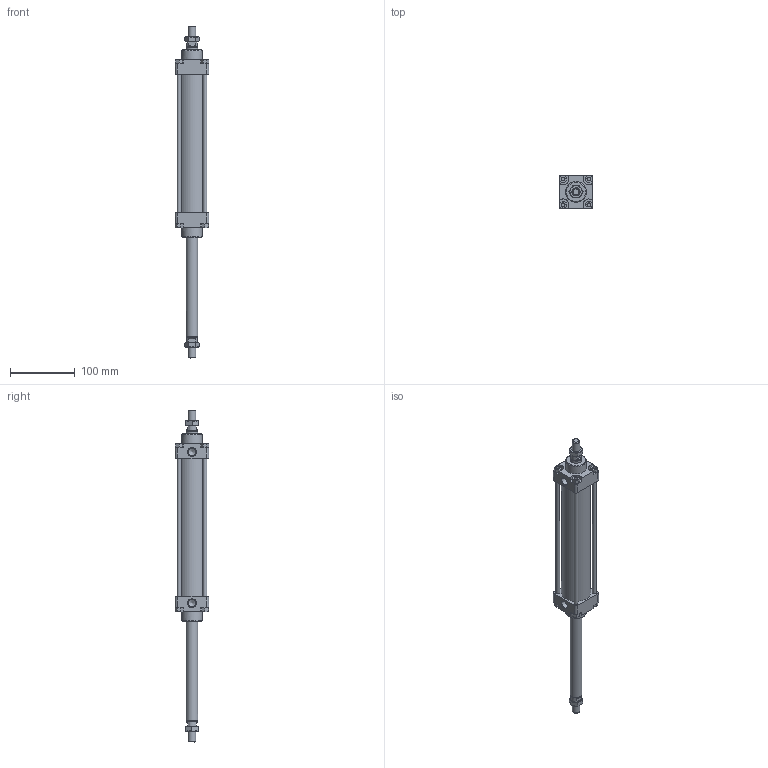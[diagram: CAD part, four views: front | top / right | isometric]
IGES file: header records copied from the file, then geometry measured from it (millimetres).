
Global section: file name: 130#_040_0150_02A; native system: Autodesk Inventor 2014; preprocessor: unknown; author: A. Manieri; date: 20161123.143744; units: millimetre
Bounding box: 52 x 52 x 514 mm (x, y, z)
Volume: 400825.1 mm3; surface area: 143343.8 mm2
Topology: 10 solids, 10 shells, 187 faces, 467 edges, 314 vertices
Faces by surface type: bspline 187
